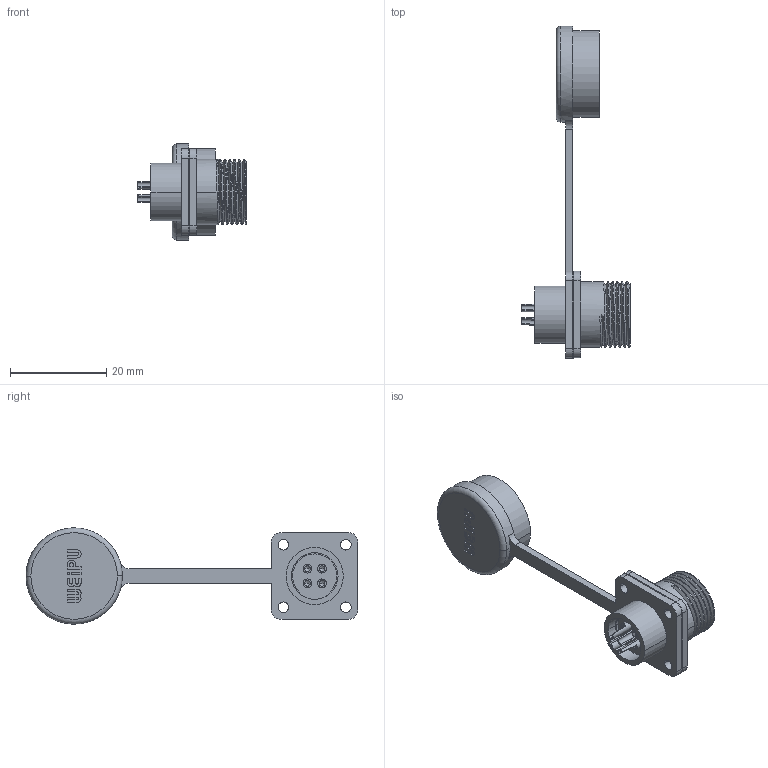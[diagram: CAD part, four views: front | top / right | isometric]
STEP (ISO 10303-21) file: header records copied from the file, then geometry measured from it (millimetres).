
FILE_DESCRIPTION((''),'2;1');
FILE_NAME('ST1213-ZJ','2020-02-22T',('Administrator'),(''),'CREO PARAMETRIC BY PTC INC, 2016130','CREO PARAMETRIC BY PTC INC, 2016130','');
FILE_SCHEMA(('CONFIG_CONTROL_DESIGN'));
Length unit declared in the file: millimetre
Products named in the file (1): ST1213-ZJ
Bounding box: 22.5 x 69 x 20 mm (x, y, z)
Volume: 3725.8 mm3; surface area: 4398.4 mm2
Topology: 1 solids, 1 shells, 235 faces, 624 edges, 398 vertices
Faces by surface type: cylinder 103, plane 92, cone 12, torus 12, bspline 8, sphere 8
Entity records: 9382 total; most frequent: CARTESIAN_POINT 3474, DIRECTION 1238, ORIENTED_EDGE 1216, EDGE_CURVE 608, AXIS2_PLACEMENT_3D 462, VERTEX_POINT 398, VECTOR 314, LINE 314
